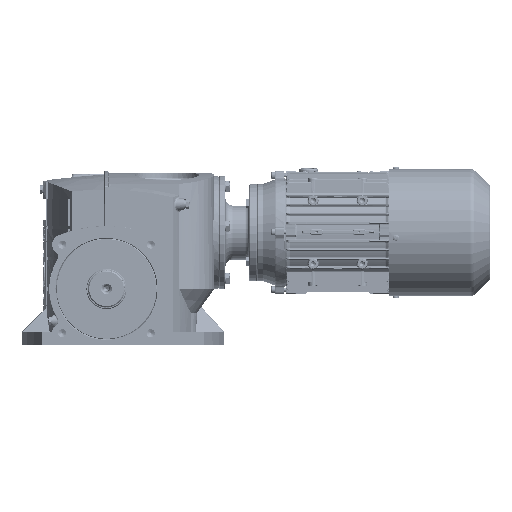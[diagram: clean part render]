
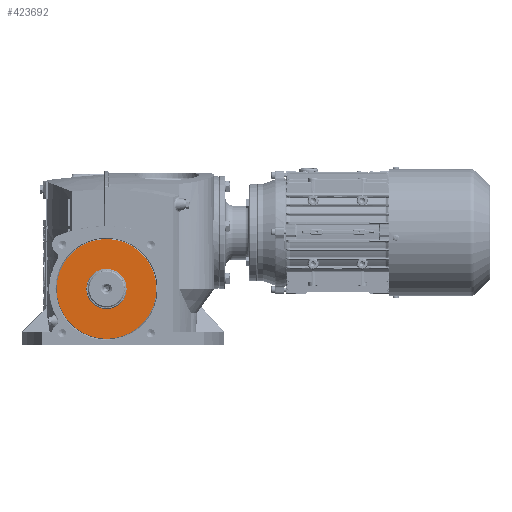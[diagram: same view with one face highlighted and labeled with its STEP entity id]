
A CAD part, left-side view. The second image highlights one B-rep face of the part: STEP entity #423692.
In plain terms, the highlighted planar face has unit normal (-1, 0, 0).
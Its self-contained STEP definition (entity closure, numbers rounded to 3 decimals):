
#3431 = ORIENTED_EDGE ( 'NONE', *, *, #426662, .F. ) ;
#4603 = DIRECTION ( 'NONE',  ( -1., 0., 0. ) ) ;
#8207 = AXIS2_PLACEMENT_3D ( 'NONE', #342111, #108721, #344327 ) ;
#13389 = PLANE ( 'NONE',  #194925 ) ;
#44521 = CARTESIAN_POINT ( 'NONE',  ( 0., 62., 0. ) ) ;
#52423 = VERTEX_POINT ( 'NONE', #362396 ) ;
#53546 = DIRECTION ( 'NONE',  ( -1., 0., 0. ) ) ;
#54363 = DIRECTION ( 'NONE',  ( -1., 0., 0. ) ) ;
#66717 = VERTEX_POINT ( 'NONE', #299260 ) ;
#66896 = CARTESIAN_POINT ( 'NONE',  ( 0., 0., 0. ) ) ;
#70672 = EDGE_CURVE ( 'NONE', #66717, #439783, #185543, .T. ) ;
#71103 = AXIS2_PLACEMENT_3D ( 'NONE', #289052, #53546, #320183 ) ;
#82203 = FACE_BOUND ( 'NONE', #269598, .T. ) ;
#86163 = EDGE_LOOP ( 'NONE', ( #165898, #146328 ) ) ;
#108721 = DIRECTION ( 'NONE',  ( -1., 0., 0. ) ) ;
#114928 = AXIS2_PLACEMENT_3D ( 'NONE', #154315, #54363, #187714 ) ;
#118168 = EDGE_CURVE ( 'NONE', #439783, #66717, #327275, .T. ) ;
#146328 = ORIENTED_EDGE ( 'NONE', *, *, #70672, .T. ) ;
#148909 = DIRECTION ( 'NONE',  ( 1., 0., 0. ) ) ;
#154315 = CARTESIAN_POINT ( 'NONE',  ( 0., 0., 0. ) ) ;
#163406 = CIRCLE ( 'NONE', #71103, 25. ) ;
#165898 = ORIENTED_EDGE ( 'NONE', *, *, #118168, .T. ) ;
#185543 = CIRCLE ( 'NONE', #8207, 62. ) ;
#187714 = DIRECTION ( 'NONE',  ( 0., 0., 1. ) ) ;
#194925 = AXIS2_PLACEMENT_3D ( 'NONE', #44521, #148909, #286649 ) ;
#215202 = ORIENTED_EDGE ( 'NONE', *, *, #388282, .F. ) ;
#269598 = EDGE_LOOP ( 'NONE', ( #215202, #3431 ) ) ;
#273485 = DIRECTION ( 'NONE',  ( 0., 0., 1. ) ) ;
#275911 = VERTEX_POINT ( 'NONE', #304270 ) ;
#277511 = AXIS2_PLACEMENT_3D ( 'NONE', #66896, #4603, #273485 ) ;
#286649 = DIRECTION ( 'NONE',  ( 0., 0., -1. ) ) ;
#289052 = CARTESIAN_POINT ( 'NONE',  ( 0., 0., 0. ) ) ;
#299260 = CARTESIAN_POINT ( 'NONE',  ( 0., 0., 62. ) ) ;
#304270 = CARTESIAN_POINT ( 'NONE',  ( 0., 0., 25. ) ) ;
#320183 = DIRECTION ( 'NONE',  ( 0., 0., 1. ) ) ;
#327275 = CIRCLE ( 'NONE', #277511, 62. ) ;
#342111 = CARTESIAN_POINT ( 'NONE',  ( 0., 0., 0. ) ) ;
#344327 = DIRECTION ( 'NONE',  ( 0., 0., 1. ) ) ;
#353269 = FACE_OUTER_BOUND ( 'NONE', #86163, .T. ) ;
#362396 = CARTESIAN_POINT ( 'NONE',  ( 0., 0., -25. ) ) ;
#374362 = CARTESIAN_POINT ( 'NONE',  ( 0., 0., -62. ) ) ;
#388282 = EDGE_CURVE ( 'NONE', #275911, #52423, #163406, .T. ) ;
#391875 = CIRCLE ( 'NONE', #114928, 25. ) ;
#423692 = ADVANCED_FACE ( 'NONE', ( #82203, #353269 ), #13389, .F. ) ;
#426662 = EDGE_CURVE ( 'NONE', #52423, #275911, #391875, .T. ) ;
#439783 = VERTEX_POINT ( 'NONE', #374362 ) ;
